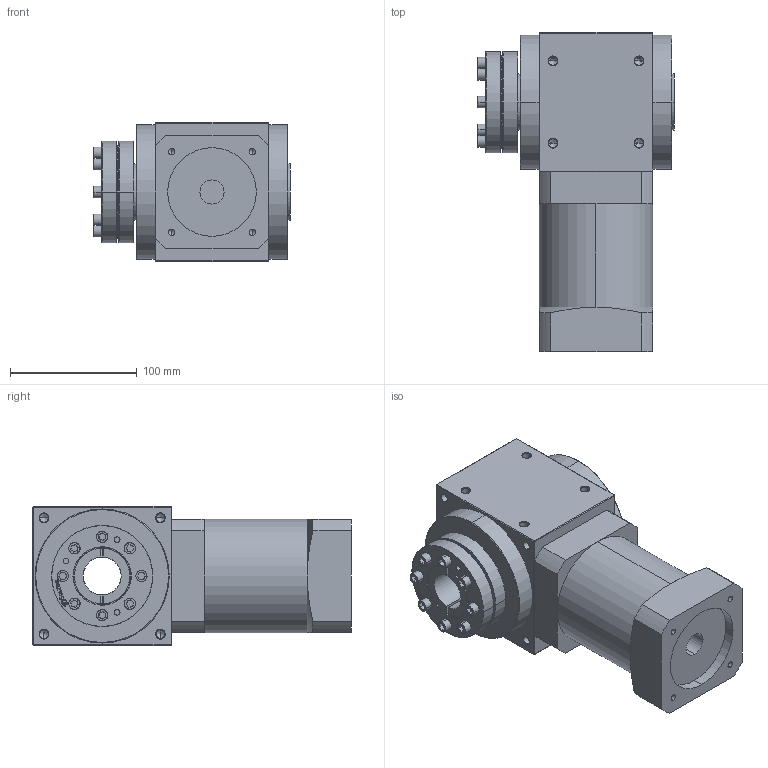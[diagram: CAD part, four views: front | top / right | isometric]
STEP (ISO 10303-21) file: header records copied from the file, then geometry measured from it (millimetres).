
FILE_DESCRIPTION (( 'STEP AP214' ), '1' );
FILE_NAME ('AAW110AS-030-RFHP-L2(12-100) 19-70-90-M6.STEP', '2021-04-24T03:19:25', ( 'Microsoft' ), ( 'Microsoft China' ), 'SwSTEP 2.0', 'SolidWorks 2016', '' );
FILE_SCHEMA (( 'AUTOMOTIVE_DESIGN' ));
Length unit declared in the file: millimetre
Products named in the file (3): 83_44x80_1; AAW110AS-L2-HPL-22-110-145-M8_2; AAW110AS-030-RFHP-L2(12-100) 19-70-90-M6
Assembly tree (2 placements, depth 2):
  AAW110AS-030-RFHP-L2(12-100) 19-70-90-M6
    AAW110AS-L2-HPL-22-110-145-M8_2
    83_44x80_1
Bounding box: 155.6 x 252 x 110 mm (x, y, z)
Volume: 2310587.3 mm3; surface area: 204705.6 mm2
Topology: 14 solids, 14 shells, 710 faces, 1668 edges, 986 vertices
Faces by surface type: cylinder 287, cone 184, plane 183, torus 56
Entity records: 28116 total; most frequent: CARTESIAN_POINT 3805, DIRECTION 3624, ORIENTED_EDGE 3240, EDGE_CURVE 1620, AXIS2_PLACEMENT_3D 1415, VERTEX_POINT 986, EDGE_LOOP 814, LINE 794
